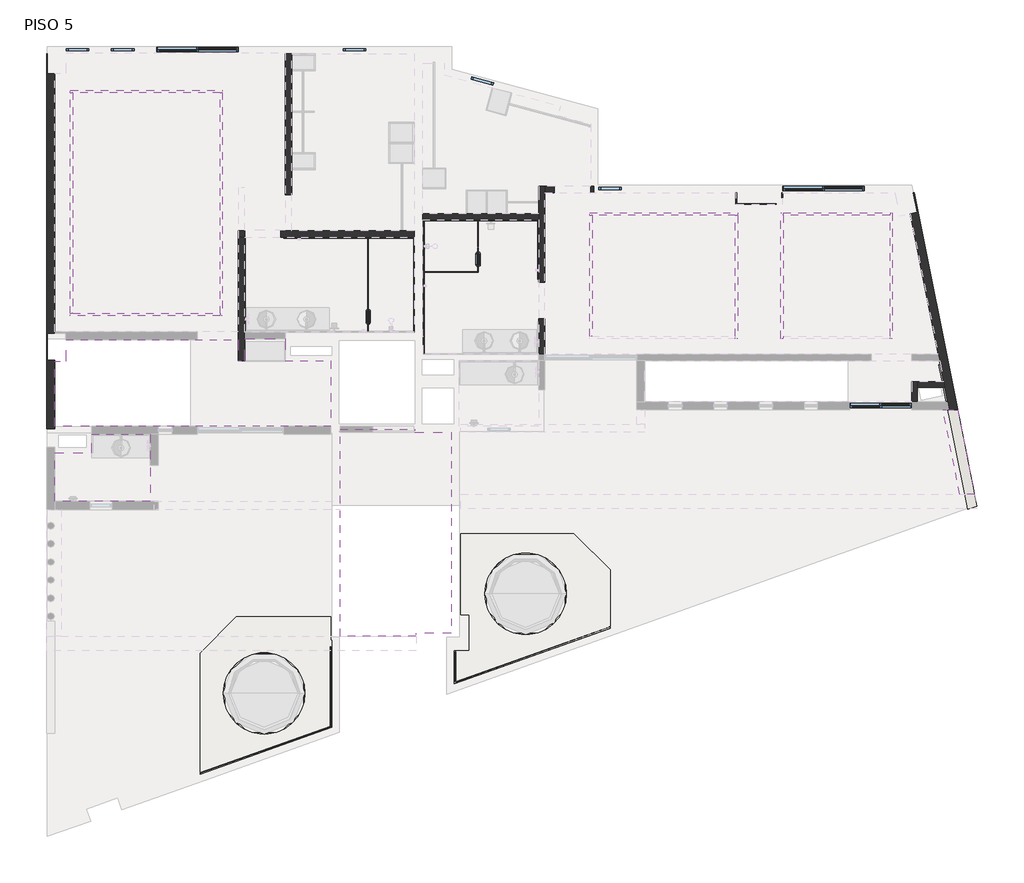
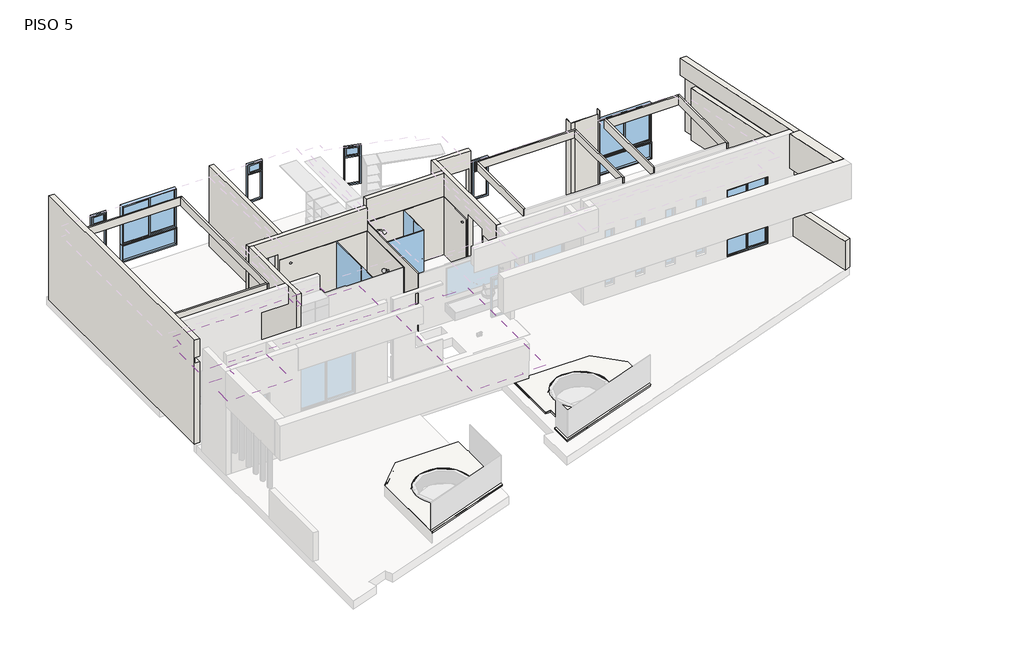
# One storey, part 2 of 3: 31 walls, 11 windows, 4 slabs, 3 coverings.
"""IFC4 building model written with IfcOpenShell, lengths in millimetres."""

from ifc_helpers import new_model, si_unit, point, frame, frame_2d, origin, place, context, project, spatial, polyline, circle_curve, trimmed, segment, composite_curve, outline, extrude, faceted_brep, transform, mapped, element, save
from components import estructura_ptr_deck09_estructura_ptr_deck09_391a90b6, estructura_ptr_deck1_estructura_ptr_deck09_1f454c2c, window_e71f6d47, window_b75bd1a9, window_504e83ce, window_25ba4c91, window_d1d74ead, window_4e6a734b, window_5b8805d6

model = new_model("IFC4")

# Units and contexts
model_context = context("Model", 3, world=origin())
ifc_project = project(units=[si_unit("LENGTHUNIT", "METRE", prefix="MILLI")], contexts=[model_context])

# Site, building, storey
site = spatial("IfcSite", under=ifc_project)
building = spatial("IfcBuilding", under=site)
storey = spatial("IfcBuildingStorey", under=building, Name="PISO 5", Elevation=15000.0)

# Coverings
placement = place(None, origin())
element("IfcCovering", 1, ObjectType="Plafond Tablaroca", at=placement, inside=storey, context=model_context, shape_type="SweptSolid", body=[
    extrude(outline(polyline([(34963.8589874, 29684.010184), (36254.5300226, 29684.010184), (36254.5300226, 28201.0432167), (34143.8589874, 28201.0432167), (34143.8589874, 29274.010184), (34963.8589874, 29274.010184), (34963.8589874, 29684.010184)])), frame((0.0, 0.0, 17400.0), z_axis=(0.0, 0.0, 1.0), x_axis=(1.0, 0.0, 0.0)), (0.0, 0.0, 1.0), 52.7),
])
element("IfcCovering", 2, ObjectType="Plafond Tablaroca", at=placement, inside=storey, context=model_context, shape_type="SweptSolid", body=[
    extrude(outline(polyline([(40234.5059119, 31304.0104769), (40234.5059119, 29864.010184), (34903.8589874, 29864.010184), (34143.8589874, 29864.010184), (34143.8589874, 31298.9733508), (34398.8589874, 31298.9733508), (34398.8589874, 31768.9733508), (38194.5300269, 31768.9733508), (38194.5300269, 31304.0104769), (38334.5300269, 31304.0104769), (38334.5300269, 31793.9733508), (39234.5300226, 31793.9733508), (39234.5300226, 31304.0104769), (40234.5059119, 31304.0104769)])), frame((0.0, 0.0, 17400.0), z_axis=(0.0, 0.0, 1.0), x_axis=(1.0, 0.0, 0.0)), (0.0, 0.0, 1.0), 52.7),
])
element("IfcCovering", 3, ObjectType="Plafond Tablaroca", at=placement, inside=storey, context=model_context, shape_type="SweptSolid", body=[
    extrude(outline(polyline([(40444.5059119, 25224.0112971), (40444.5059119, 29794.010184), (42089.5059119, 29794.010184), (42089.5059119, 29724.010184), (42899.5059119, 29724.010184), (42899.5059119, 25294.0112971), (42118.6451132, 25294.0112971), (42118.6451132, 25224.0112971), (40444.5059119, 25224.0112971)])), frame((0.0, 0.0, 17350.0), z_axis=(0.0, 0.0, 1.0), x_axis=(1.0, 0.0, 0.0)), (0.0, 0.0, 1.0), 52.7),
])

# Slabs
estructura_ptr_deck09_estructura_ptr_deck09_shape = estructura_ptr_deck09_estructura_ptr_deck09_391a90b6(model_context)
element("IfcSlab", 4, ObjectType="ESTRUCTURA PTR DECK09 : ESTRUCTURA PTR DECK09", at=placement, inside=storey, context=model_context, shape_type="MappedRepresentation", body=[
    mapped(estructura_ptr_deck09_estructura_ptr_deck09_shape, transform((0.0, 0.0, 0.0), x_axis=(1.0, 0.0, 0.0), y_axis=(0.0, 1.0, 0.0), z_axis=(0.0, 0.0, 1.0))),
])
estructura_ptr_deck1_estructura_ptr_deck09_shape = estructura_ptr_deck1_estructura_ptr_deck09_1f454c2c(model_context)
element("IfcSlab", 5, ObjectType="ESTRUCTURA PTR DECK1 : ESTRUCTURA PTR DECK09", at=placement, inside=storey, context=model_context, shape_type="MappedRepresentation", body=[
    mapped(estructura_ptr_deck1_estructura_ptr_deck09_shape, transform((0.0, 0.0, 0.0), x_axis=(1.0, 0.0, 0.0), y_axis=(0.0, 1.0, 0.0), z_axis=(0.0, 0.0, 1.0))),
])
element("IfcSlab", 6, ObjectType="deck", at=placement, inside=storey, context=model_context, shape_type="SweptSolid", body=[
    extrude(outline(polyline([(37354.5300226, 22176.7988802), (37354.5300226, 24849.35887), (38155.1711525, 25650.0), (40234.5059119, 25650.0), (40234.5059119, 25134.0112971), (40264.5059119, 25134.0112971), (40264.5059119, 23213.7791487), (37354.5300226, 22176.7988802)]), holes=[composite_curve([segment(trimmed(circle_curve(frame_2d((38767.6460545, 23962.4389461)), 900.0), [point((37867.6460545, 23962.4389461))], [point((39667.6460545, 23962.4389461))], True, "CARTESIAN"), True, "CONTINUOUS"), segment(trimmed(circle_curve(frame_2d((38767.6460545, 23962.4389461)), 900.0), [point((39667.6460545, 23962.4389461))], [point((37867.6460545, 23962.4389461))], True, "CARTESIAN"), True, "CONTINUOUS")], self_intersect=False)]), frame((0.0, 0.0, 15380.0), z_axis=(0.0, 0.0, 1.0), x_axis=(1.0, 0.0, 0.0)), (0.0, 0.0, 1.0), 20.0),
])
element("IfcSlab", 7, ObjectType="deck", at=placement, inside=storey, context=model_context, shape_type="SweptSolid", body=[
    extrude(outline(polyline([(43109.5059119, 27491.0432167), (45602.6275078, 27491.0432167), (46402.6275078, 26691.0432167), (46402.6275078, 25401.120633), (42962.6275078, 24175.2643855), (42962.6275078, 24900.0), (43289.5059119, 24900.0), (43289.5059119, 25694.0112971), (43109.5059119, 25694.0112971), (43109.5059119, 27491.0432167)]), holes=[composite_curve([segment(trimmed(circle_curve(frame_2d((44538.6061469, 26161.7354892)), 900.0), [point((43638.6061469, 26161.7354892))], [point((45438.6061469, 26161.7354892))], True, "CARTESIAN"), True, "CONTINUOUS"), segment(trimmed(circle_curve(frame_2d((44538.6061469, 26161.7354892)), 900.0), [point((45438.6061469, 26161.7354892))], [point((43638.6061469, 26161.7354892))], True, "CARTESIAN"), True, "CONTINUOUS")], self_intersect=False)]), frame((0.0, 0.0, 15380.0), z_axis=(0.0, 0.0, 1.0), x_axis=(1.0, 0.0, 0.0)), (0.0, 0.0, 1.0), 20.0),
])

# Walls
element("IfcWall", 8, ObjectType="Muro block 12cms_int_ductos", at=placement, inside=storey, context=model_context, shape_type="Brep", body=[
    faceted_brep([(53185.8558202, 30404.0104696, 15000.0), (53185.8558202, 30724.0100923, 15000.0), (53185.8558202, 30844.0100923, 15000.0), (53185.8558202, 30844.0100923, 17800.0), (53185.8558202, 30724.0100923, 17800.0), (53185.8558202, 30404.0104696, 17800.0), (53065.8558202, 30404.0104696, 15000.0), (53065.8558202, 30404.0104696, 17350.0), (53065.8558202, 30404.0104696, 17800.0), (53065.8558202, 30844.0100923, 17800.0), (53065.8558202, 30844.0100923, 15000.0)], [[[0, 1, 2, 3, 4, 5]], [[6, 7, 8, 9, 10]], [[2, 1, 0, 6, 10]], [[3, 2, 10, 9]], [[0, 5, 8, 7, 6]], [[5, 4, 3, 9, 8]]]),
])
element("IfcWall", 9, ObjectType="Muro block 12cms_int_ductos", at=placement, inside=storey, context=model_context, shape_type="Brep", body=[
    faceted_brep([(53185.8558202, 30724.0100923, 15000.0), (53760.5143431, 30724.0100923, 15000.0), (53760.5143431, 30724.0100923, 16000.0), (53791.1101607, 30724.0100923, 16000.0), (53791.1101607, 30724.0100923, 17800.0), (53185.8558202, 30724.0100923, 17800.0), (53185.8558202, 30844.0100923, 15000.0), (53185.8558202, 30844.0100923, 17800.0), (53767.0755006, 30844.0100923, 17800.0), (53767.0755006, 30844.0100923, 16000.0), (53736.479683, 30844.0100923, 16000.0), (53736.479683, 30844.0100923, 15000.0)], [[[0, 1, 2, 3, 4, 5]], [[6, 7, 8, 9, 10, 11]], [[1, 0, 6, 11]], [[0, 5, 7, 6]], [[5, 4, 8, 7]], [[9, 3, 2, 10]], [[2, 1, 11, 10]], [[4, 3, 9, 8]]]),
])
element("IfcWall", 10, ObjectType="Muro block 18cms_ext tezon", at=placement, inside=storey, context=model_context, shape_type="Brep", body=[
    faceted_brep([(53748.4740201, 30224.0104696, 17400.0), (54121.1592499, 28363.2715476, 17400.0), (54121.1592499, 28363.2715476, 18600.0), (53748.4740201, 30224.0104696, 18600.0), (54074.829408, 30224.0104696, 17400.0), (54074.829408, 30224.0104696, 18600.0), (54447.5146377, 28363.2715476, 18600.0), (54447.5146377, 28363.2715476, 17400.0), (53891.2545023, 30224.0104696, 18600.0)], [[[0, 1, 2, 3]], [[4, 5, 6, 7]], [[1, 0, 4, 7]], [[3, 2, 6, 5, 8]], [[0, 3, 8, 5, 4]], [[2, 1, 7, 6]]]),
])
element("IfcWall", 11, ObjectType="Muro Concreto - 17 cm + enjarre (21)", at=placement, inside=storey, context=model_context, shape_type="Brep", body=[
    faceted_brep([(53661.6667636, 31217.5352548, 15000.0), (53736.479683, 30844.0100923, 15000.0), (53760.5143431, 30724.0100923, 15000.0), (54297.1864274, 28044.5193158, 15000.0), (54301.1556495, 28024.7018254, 15000.0), (54301.1556495, 28024.7018254, 16000.0), (54265.4326509, 28203.0592396, 16000.0), (53760.5143431, 30724.0100923, 16000.0), (53736.479683, 30844.0100923, 16000.0), (53661.6667636, 31217.5352548, 16000.0), (54501.0585736, 28095.9379441, 16000.0), (54501.0585736, 28095.9379441, 15000.0), (54497.0893515, 28115.7554346, 15000.0), (54074.829408, 30224.0104696, 15000.0), (54074.829408, 30224.0104696, 16000.0), (53691.0825488, 31223.4269081, 15000.0), (53891.2545023, 30224.0104696, 15000.0), (53891.2545023, 30224.0104696, 16000.0), (53691.0825488, 31223.4269081, 16000.0)], [[[0, 1, 2, 3, 4, 5, 6, 7, 8, 9]], [[10, 11, 12, 13, 14]], [[4, 3, 2, 1, 0, 15, 16, 13, 12, 11]], [[9, 8, 7, 6, 5, 10, 14, 17, 18]], [[0, 9, 18, 15]], [[5, 4, 11, 10]], [[17, 16, 15, 18]], [[16, 17, 14, 13]]]),
])
element("IfcWall", 12, ObjectType="Plafond tablaroca", at=placement, inside=storey, context=model_context, shape_type="Brep", body=[
    faceted_brep([(49223.4726708, 34514.0104642, 17720.0), (49170.7726708, 34514.0104642, 17720.0), (46010.7963639, 34514.0104642, 17720.0), (45958.0963639, 34514.0104642, 17720.0), (45958.0963639, 34514.0104642, 17452.7), (46010.7963639, 34514.0104642, 17452.7), (49170.7726708, 34514.0104642, 17452.7), (49223.4726708, 34514.0104642, 17452.7), (45958.0963639, 34566.7104642, 17720.0), (49223.4726708, 34566.7104642, 17720.0), (49223.4726708, 34566.7104642, 17452.7), (45958.0963639, 34566.7104642, 17452.7)], [[[0, 1, 2, 3, 4, 5, 6, 7]], [[8, 9, 10, 11]], [[3, 2, 1, 0, 9, 8]], [[9, 0, 7, 10]], [[3, 8, 11, 4]], [[7, 6, 5, 4, 11, 10]]]),
])
element("IfcWall", 13, ObjectType="Plafond tablaroca", at=placement, inside=storey, context=model_context, shape_type="Brep", body=[
    faceted_brep([(49170.7726708, 31791.3104694, 17720.0), (49170.7726708, 31844.0104694, 17720.0), (49170.7726708, 34514.0104642, 17720.0), (49170.7726708, 34514.0104642, 17452.7), (49170.7726708, 31844.0104694, 17452.7), (49170.7726708, 31791.3104694, 17452.7), (49223.4726708, 34514.0104642, 17720.0), (49223.4726708, 31791.3104694, 17720.0), (49223.4726708, 31791.3104694, 17452.7), (49223.4726708, 34514.0104642, 17452.7)], [[[0, 1, 2, 3, 4, 5]], [[6, 7, 8, 9]], [[2, 1, 0, 7, 6]], [[2, 6, 9, 3]], [[7, 0, 5, 8]], [[5, 4, 3, 9, 8]]]),
])
element("IfcWall", 14, ObjectType="Plafond tablaroca", at=placement, inside=storey, context=model_context, shape_type="SweptSolid", body=[
    extrude(outline(polyline([(46010.7963639, 34514.0104642), (46010.7963639, 31844.0104694), (45958.0963639, 31844.0104694), (45958.0963639, 34514.0104642), (46010.7963639, 34514.0104642)])), frame((0.0, 0.0, 17452.7), z_axis=(0.0, 0.0, 1.0), x_axis=(1.0, 0.0, 0.0)), (0.0, 0.0, 1.0), 267.3),
])
element("IfcWall", 15, ObjectType="Plafond tablaroca", at=placement, inside=storey, context=model_context, shape_type="Brep", body=[
    faceted_brep([(37847.2300269, 37225.4026232, 17720.0), (37794.5300269, 37225.4026232, 17720.0), (34543.8589874, 37225.4026232, 17720.0), (34491.1589874, 37225.4026232, 17720.0), (34491.1589874, 37225.4026232, 17452.7), (34543.8589874, 37225.4026232, 17452.7), (37794.5300269, 37225.4026232, 17452.7), (37847.2300269, 37225.4026232, 17452.7), (34491.1589874, 37278.1026232, 17720.0), (37847.2300269, 37278.1026232, 17720.0), (37847.2300269, 37278.1026232, 17452.7), (34491.1589874, 37278.1026232, 17452.7)], [[[0, 1, 2, 3, 4, 5, 6, 7]], [[8, 9, 10, 11]], [[3, 2, 1, 0, 9, 8]], [[9, 0, 7, 10]], [[3, 8, 11, 4]], [[7, 6, 5, 4, 11, 10]]]),
])
element("IfcWall", 16, ObjectType="Plafond tablaroca", at=placement, inside=storey, context=model_context, shape_type="Brep", body=[
    faceted_brep([(37794.5300269, 32296.2733508, 17720.0), (37794.5300269, 32348.9733508, 17720.0), (37794.5300269, 37225.4026232, 17720.0), (37794.5300269, 37225.4026232, 17452.7), (37794.5300269, 32348.9733508, 17452.7), (37794.5300269, 32296.2733508, 17452.7), (37847.2300269, 37225.4026232, 17720.0), (37847.2300269, 32296.2733508, 17720.0), (37847.2300269, 32296.2733508, 17452.7), (37847.2300269, 37225.4026232, 17452.7)], [[[0, 1, 2, 3, 4, 5]], [[6, 7, 8, 9]], [[2, 1, 0, 7, 6]], [[2, 6, 9, 3]], [[7, 0, 5, 8]], [[5, 4, 3, 9, 8]]]),
])
element("IfcWall", 17, ObjectType="Plafond tablaroca", at=placement, inside=storey, context=model_context, shape_type="Brep", body=[
    faceted_brep([(34491.1589874, 32348.9733508, 17720.0), (34543.8589874, 32348.9733508, 17720.0), (37794.5300269, 32348.9733508, 17720.0), (37794.5300269, 32348.9733508, 17452.7), (34543.8589874, 32348.9733508, 17452.7), (34491.1589874, 32348.9733508, 17452.7), (37794.5300269, 32296.2733508, 17720.0), (34491.1589874, 32296.2733508, 17720.0), (34491.1589874, 32296.2733508, 17452.7), (37794.5300269, 32296.2733508, 17452.7)], [[[0, 1, 2, 3, 4, 5]], [[6, 7, 8, 9]], [[2, 1, 0, 7, 6]], [[2, 6, 9, 3]], [[7, 0, 5, 8]], [[5, 4, 3, 9, 8]]]),
])
element("IfcWall", 18, ObjectType="Plafond tablaroca", at=placement, inside=storey, context=model_context, shape_type="SweptSolid", body=[
    extrude(outline(polyline([(34543.8589874, 37225.4026232), (34543.8589874, 32348.9733508), (34491.1589874, 32348.9733508), (34491.1589874, 37225.4026232), (34543.8589874, 37225.4026232)])), frame((0.0, 0.0, 17452.7), z_axis=(0.0, 0.0, 1.0), x_axis=(1.0, 0.0, 0.0)), (0.0, 0.0, 1.0), 267.3),
])
element("IfcWall", 19, ObjectType="Cerámica baño", at=placement, inside=storey, context=model_context, shape_type="Brep", body=[
    faceted_brep([(42299.5059119, 31464.0104755, 15000.0), (42299.5059119, 33244.0104642, 15000.0), (42299.5059119, 33284.0104642, 15000.0), (42299.5059119, 34394.0104642, 15000.0), (42299.5059119, 34414.0104642, 15000.0), (42299.5059119, 34414.0104642, 17000.0), (42299.5059119, 34394.0104642, 17000.0), (42299.5059119, 33284.0104642, 17000.0), (42299.5059119, 33244.0104642, 17000.0), (42299.5059119, 31464.0104755, 17000.0), (42279.5059119, 31464.0104755, 15000.0), (42279.5059119, 31464.0104755, 17000.0), (42279.5059119, 34414.0104642, 17000.0), (42279.5059119, 34414.0104642, 15000.0)], [[[0, 1, 2, 3, 4, 5, 6, 7, 8, 9]], [[10, 11, 12, 13]], [[4, 3, 2, 1, 0, 10, 13]], [[9, 8, 7, 6, 5, 12, 11]], [[5, 4, 13, 12]], [[0, 9, 11, 10]]]),
])
element("IfcWall", 20, ObjectType="Cerámica baño", at=placement, inside=storey, context=model_context, shape_type="Brep", body=[
    faceted_brep([(42299.5059119, 34394.0104642, 15000.0), (43469.5059119, 34394.0104642, 15000.0), (43509.5059119, 34394.0104642, 15000.0), (44804.5251366, 34394.0104642, 15000.0), (44824.5251366, 34394.0104642, 15000.0), (44824.5251366, 34394.0104642, 17000.0), (44804.5251366, 34394.0104642, 17000.0), (43509.5059119, 34394.0104642, 17000.0), (43469.5059119, 34394.0104642, 17000.0), (42299.5059119, 34394.0104642, 17000.0), (42299.5059119, 34414.0104642, 15000.0), (42299.5059119, 34414.0104642, 17000.0), (44824.5251366, 34414.0104642, 17000.0), (44824.5251366, 34414.0104642, 15000.0)], [[[0, 1, 2, 3, 4, 5, 6, 7, 8, 9]], [[10, 11, 12, 13]], [[4, 3, 2, 1, 0, 10, 13]], [[9, 8, 7, 6, 5, 12, 11]], [[5, 4, 13, 12]], [[0, 9, 11, 10]]]),
])
element("IfcWall", 21, ObjectType="Cerámica baño", at=placement, inside=storey, context=model_context, shape_type="SweptSolid", body=[
    extrude(outline(polyline([(44804.5251366, 33104.0113801), (44804.5251366, 34394.0104642), (44824.5251366, 34394.0104642), (44824.5251366, 33104.0113801), (44804.5251366, 33104.0113801)])), frame((0.0, 0.0, 15000.0), z_axis=(0.0, 0.0, 1.0), x_axis=(1.0, 0.0, 0.0)), (0.0, 0.0, 1.0), 2000.0),
])
element("IfcWall", 22, ObjectType="Cerámica baño", at=placement, inside=storey, context=model_context, shape_type="Brep", body=[
    faceted_brep([(39204.5300269, 34008.9785701, 15000.0), (41044.5059119, 34008.9785701, 15000.0), (41084.5059119, 34008.9785701, 15000.0), (42064.5059119, 34008.9785701, 15000.0), (42084.5059119, 34008.9785701, 15000.0), (42084.5059119, 34008.9785701, 17000.0), (42064.5059119, 34008.9785701, 17000.0), (39204.5300269, 34008.9785701, 17000.0), (39204.5300269, 34028.9785701, 15000.0), (39204.5300269, 34028.9785701, 17000.0), (42084.5059119, 34028.9785701, 17000.0), (42084.5059119, 34028.9785701, 15000.0)], [[[0, 1, 2, 3, 4, 5, 6, 7]], [[8, 9, 10, 11]], [[4, 3, 2, 1, 0, 8, 11]], [[7, 6, 5, 10, 9]], [[0, 7, 9, 8]], [[5, 4, 11, 10]]]),
])
element("IfcWall", 23, ObjectType="Cerámica baño", at=placement, inside=storey, context=model_context, shape_type="Brep", body=[
    faceted_brep([(42064.5059119, 34008.9785701, 15000.0), (42064.5059119, 31953.9733508, 15000.0), (42064.5059119, 31933.9733508, 15000.0), (42064.5059119, 31933.9733508, 17000.0), (42064.5059119, 31953.9733508, 17000.0), (42064.5059119, 34008.9785701, 17000.0), (42084.5059119, 34008.9785701, 15000.0), (42084.5059119, 34008.9785701, 17000.0), (42084.5059119, 31933.9733508, 17000.0), (42084.5059119, 31933.9733508, 15000.0)], [[[0, 1, 2, 3, 4, 5]], [[6, 7, 8, 9]], [[2, 1, 0, 6, 9]], [[5, 4, 3, 8, 7]], [[3, 2, 9, 8]], [[0, 5, 7, 6]]]),
])
element("IfcWall", 24, ObjectType="Cerámica baño", at=placement, inside=storey, context=model_context, shape_type="SweptSolid", body=[
    extrude(outline(polyline([(38354.5300269, 34028.9785701), (38354.5300269, 31953.9733508), (38334.5300269, 31953.9733508), (38334.5300269, 34028.9785701), (38354.5300269, 34028.9785701)])), frame((0.0, 0.0, 15000.0), z_axis=(0.0, 0.0, 1.0), x_axis=(1.0, 0.0, 0.0)), (0.0, 0.0, 1.0), 2000.0),
])
element("IfcWall", 25, ObjectType="Plafond tablaroca", at=placement, inside=storey, context=model_context, shape_type="Brep", body=[
    faceted_brep([(52583.4450839, 34566.7104642, 17400.0), (52583.4450839, 34514.0104642, 17400.0), (52583.4450839, 31844.0104694, 17400.0), (52583.4450839, 31791.3104694, 17400.0), (52583.4450839, 31791.3104694, 17720.0), (52583.4450839, 31844.0104694, 17720.0), (52583.4450839, 34514.0104642, 17720.0), (52583.4450839, 34566.7104642, 17720.0), (52636.1450839, 34566.7104642, 17400.0), (52636.1450839, 34566.7104642, 17720.0), (52636.1450839, 31791.3104694, 17720.0), (52636.1450839, 31791.3104694, 17400.0)], [[[0, 1, 2, 3, 4, 5, 6, 7]], [[8, 9, 10, 11]], [[3, 2, 1, 0, 8, 11]], [[7, 6, 5, 4, 10, 9]], [[0, 7, 9, 8]], [[4, 3, 11, 10]]]),
])
element("IfcWall", 26, ObjectType="Plafond tablaroca", at=placement, inside=storey, context=model_context, shape_type="Brep", body=[
    faceted_brep([(50223.1917669, 31791.3104694, 17400.0), (50223.1917669, 31844.0104694, 17400.0), (50223.1917669, 34514.0104642, 17400.0), (50223.1917669, 34566.7104642, 17400.0), (50223.1917669, 34566.7104642, 17720.0), (50223.1917669, 34514.0104642, 17720.0), (50223.1917669, 31844.0104694, 17720.0), (50223.1917669, 31791.3104694, 17720.0), (50170.4917669, 31791.3104694, 17400.0), (50170.4917669, 31791.3104694, 17720.0), (50170.4917669, 34566.7104642, 17720.0), (50170.4917669, 34566.7104642, 17400.0)], [[[0, 1, 2, 3, 4, 5, 6, 7]], [[8, 9, 10, 11]], [[3, 2, 1, 0, 8, 11]], [[7, 6, 5, 4, 10, 9]], [[4, 3, 11, 10]], [[0, 7, 9, 8]]]),
])
element("IfcWall", 27, ObjectType="Plafond tablaroca", at=placement, inside=storey, context=model_context, shape_type="SweptSolid", body=[
    extrude(outline(polyline([(52583.4450839, 34514.0104642), (50223.1917669, 34514.0104642), (50223.1917669, 34566.7104642), (52583.4450839, 34566.7104642), (52583.4450839, 34514.0104642)])), frame((0.0, 0.0, 17400.0), z_axis=(0.0, 0.0, 1.0), x_axis=(1.0, 0.0, 0.0)), (0.0, 0.0, 1.0), 320.0),
])
element("IfcWall", 28, ObjectType="Muro block 14cms_int", at=placement, inside=storey, context=model_context, shape_type="Brep", body=[
    faceted_brep([(42084.5059119, 34028.9785701, 17800.0), (38334.5300269, 34028.9785701, 17800.0), (38194.5300269, 34028.9785701, 17800.0), (38194.5300269, 34028.9785701, 15000.0), (38334.5300269, 34028.9785701, 15000.0), (38334.5300269, 34028.9785701, 17200.0), (39134.5300269, 34028.9785701, 17200.0), (39134.5300269, 34028.9785701, 15000.0), (42084.5059119, 34028.9785701, 15000.0), (38194.5300269, 34168.9785701, 17800.0), (39234.5300226, 34168.9785701, 17800.0), (39374.5300226, 34168.9785701, 17800.0), (42084.5059119, 34168.9785701, 17800.0), (42084.5059119, 34168.9785701, 15000.0), (39134.5300269, 34168.9785701, 15000.0), (39134.5300269, 34168.9785701, 17200.0), (38334.5300269, 34168.9785701, 17200.0), (38334.5300269, 34168.9785701, 15000.0), (38194.5300269, 34168.9785701, 15000.0)], [[[0, 1, 2, 3, 4, 5, 6, 7, 8]], [[9, 10, 11, 12, 13, 14, 15, 16, 17, 18]], [[3, 18, 17, 4]], [[13, 8, 7, 14]], [[16, 5, 4, 17]], [[5, 16, 15, 6]], [[6, 15, 14, 7]], [[2, 1, 0, 12, 11, 10, 9]], [[18, 3, 2, 9]], [[0, 8, 13, 12]]]),
])
element("IfcWall", 29, ObjectType="Muro block 14cms_int", at=placement, inside=storey, context=model_context, shape_type="Brep", body=[
    faceted_brep([(39234.5300226, 38080.4026232, 17800.0), (39234.5300226, 38080.4026232, 15000.0), (39234.5300226, 34968.9785701, 15000.0), (39234.5300226, 34968.9785701, 17200.0), (39234.5300226, 34168.9785701, 17200.0), (39234.5300226, 34168.9785701, 17800.0), (39234.5300226, 36238.9785277, 17800.0), (39374.5300226, 38080.4026232, 17800.0), (39374.5300226, 34168.9785701, 17800.0), (39374.5300226, 34168.9785701, 17200.0), (39374.5300226, 34968.9785701, 17200.0), (39374.5300226, 34968.9785701, 15000.0), (39374.5300226, 38080.4026232, 15000.0)], [[[0, 1, 2, 3, 4, 5, 6]], [[7, 8, 9, 10, 11, 12]], [[1, 12, 11, 2]], [[8, 5, 4, 9]], [[3, 10, 9, 4]], [[10, 3, 2, 11]], [[1, 0, 7, 12]], [[8, 7, 0, 6, 5]]]),
])
element("IfcWall", 30, ObjectType="Muro block 14cms_int", at=placement, inside=storey, context=model_context, shape_type="Brep", body=[
    faceted_brep([(38334.5300269, 31304.0104769, 15000.0), (38334.5300269, 31793.9733508, 15000.0), (38334.5300269, 31933.9733508, 15000.0), (38334.5300269, 34028.9785701, 15000.0), (38334.5300269, 34028.9785701, 17200.0), (38334.5300269, 34028.9785701, 17800.0), (38334.5300269, 31933.9733508, 17800.0), (38334.5300269, 31793.9733508, 17800.0), (38334.5300269, 31304.0104769, 17800.0), (38194.5300269, 31304.0104769, 15000.0), (38194.5300269, 31304.0104769, 17800.0), (38194.5300269, 31768.9733508, 17800.0), (38194.5300269, 31948.9733508, 17800.0), (38194.5300269, 34028.9785701, 17800.0), (38194.5300269, 34028.9785701, 15000.0)], [[[0, 1, 2, 3, 4, 5, 6, 7, 8]], [[9, 10, 11, 12, 13, 14]], [[3, 2, 1, 0, 9, 14]], [[0, 8, 10, 9]], [[8, 7, 6, 5, 13, 12, 11, 10]], [[5, 4, 3, 14, 13]]]),
])
element("IfcWall", 31, ObjectType="Muro block 14cms_int", at=placement, inside=storey, context=model_context, shape_type="Brep", body=[
    faceted_brep([(44824.5251366, 31444.0104694, 17800.0), (44824.5251366, 34414.0104642, 17800.0), (44824.5251366, 34554.0104642, 17800.0), (44824.5251366, 35154.0104642, 17800.0), (44824.5251366, 35154.0104642, 15000.0), (44824.5251366, 34554.0104642, 15000.0), (44824.5251366, 34414.0104642, 15000.0), (44824.5251366, 33034.0113801, 15000.0), (44824.5251366, 33034.0113801, 17200.0), (44824.5251366, 32234.0113801, 17200.0), (44824.5251366, 32234.0113801, 15000.0), (44824.5251366, 31444.0104694, 15000.0), (44964.5251366, 35154.0104642, 17800.0), (44964.5251366, 35014.0104642, 17800.0), (44964.5251366, 31444.0104694, 17800.0), (44964.5251366, 31444.0104694, 17350.0), (44964.5251366, 31444.0104694, 15000.0), (44964.5251366, 32234.0113801, 15000.0), (44964.5251366, 32234.0113801, 17200.0), (44964.5251366, 33034.0113801, 17200.0), (44964.5251366, 33034.0113801, 15000.0), (44964.5251366, 35014.0104642, 15000.0), (44964.5251366, 35154.0104642, 15000.0)], [[[0, 1, 2, 3, 4, 5, 6, 7, 8, 9, 10, 11]], [[12, 13, 14, 15, 16, 17, 18, 19, 20, 21, 22]], [[16, 11, 10, 17]], [[4, 22, 21, 20, 7, 6, 5]], [[3, 2, 1, 0, 14, 13, 12]], [[0, 11, 16, 15, 14]], [[19, 8, 7, 20]], [[8, 19, 18, 9]], [[9, 18, 17, 10]], [[4, 3, 12, 22]]]),
])
element("IfcWall", 32, ObjectType="Muro block 14cms_int", at=placement, inside=storey, context=model_context, shape_type="Brep", body=[
    faceted_brep([(50214.4822189, 34899.0104642, 15000.0), (50214.4822189, 35014.0104642, 15000.0), (50214.4822189, 35014.0104642, 15400.0), (50214.4822189, 35014.0104642, 17350.0), (50214.4822189, 35014.0104642, 17800.0), (50214.4822189, 34899.0104642, 17800.0), (50194.4822189, 34899.0104642, 15000.0), (50194.4822189, 35014.0104642, 15000.0), (50194.4822189, 34899.0104642, 17800.0), (50194.4822189, 35014.0104642, 17800.0)], [[[0, 1, 2, 3, 4, 5]], [[1, 0, 6, 7]], [[7, 6, 8, 9]], [[4, 3, 2, 1, 7, 9]], [[0, 5, 8, 6]], [[5, 4, 9, 8]]]),
])
element("IfcWall", 33, ObjectType="Muro block 14cms_int", at=placement, inside=storey, context=model_context, shape_type="SweptSolid", body=[
    extrude(outline(polyline([(44824.5251366, 34414.0104642), (42264.5059119, 34414.0104642), (42264.5059119, 34554.0104642), (44824.5251366, 34554.0104642), (44824.5251366, 34414.0104642)])), frame((0.0, 0.0, 15000.0), z_axis=(0.0, 0.0, 1.0), x_axis=(1.0, 0.0, 0.0)), (0.0, 0.0, 1.0), 2800.0),
])
element("IfcWall", 34, ObjectType="Muro block 14cms_int", at=placement, inside=storey, context=model_context, shape_type="Brep", body=[
    faceted_brep([(46044.5059119, 35014.0104642, 15000.0), (46044.5059119, 35014.0104642, 17800.0), (44964.5251366, 35014.0104642, 17800.0), (44964.5251366, 35014.0104642, 15000.0), (45174.5059119, 35014.0104642, 15000.0), (45174.5059119, 35014.0104642, 17200.0), (45974.5059119, 35014.0104642, 17200.0), (45974.5059119, 35014.0104642, 15000.0), (46044.5059119, 35154.0104642, 17800.0), (46044.5059119, 35154.0104642, 15000.0), (45974.5059119, 35154.0104642, 15000.0), (45974.5059119, 35154.0104642, 17200.0), (45174.5059119, 35154.0104642, 17200.0), (45174.5059119, 35154.0104642, 15000.0), (44964.5251366, 35154.0104642, 15000.0), (44964.5251366, 35154.0104642, 17800.0), (45974.5059119, 35154.0104642, 17800.0)], [[[0, 1, 2, 3, 4, 5, 6, 7]], [[8, 9, 10, 11, 12, 13, 14, 15, 16]], [[3, 14, 13, 4]], [[9, 0, 7, 10]], [[1, 0, 9, 8]], [[2, 1, 8, 16, 15]], [[6, 11, 10, 7]], [[11, 6, 5, 12]], [[12, 5, 4, 13]], [[3, 2, 15, 14]]]),
])
element("IfcWall", 35, ObjectType="Muro block 14cms_int", at=placement, inside=storey, context=model_context, shape_type="SweptSolid", body=[
    extrude(outline(polyline([(49174.4822189, 34759.0104642), (49174.4822189, 35014.0104642), (49194.4822189, 35014.0104642), (49194.4822189, 34774.0104642), (49314.4822189, 34774.0104642), (49314.4822189, 34759.0104642), (49174.4822189, 34759.0104642)])), frame((0.0, 0.0, 15000.0), z_axis=(0.0, 0.0, 1.0), x_axis=(1.0, 0.0, 0.0)), (0.0, 0.0, 1.0), 2800.0),
])
element("IfcWall", 36, ObjectType="Muro block 14cms_int", at=placement, inside=storey, context=model_context, shape_type="SweptSolid", body=[
    extrude(outline(polyline([(50074.4822189, 34759.0104642), (49314.4822189, 34759.0104642), (49314.4822189, 34774.0104642), (50074.4822189, 34774.0104642), (50074.4822189, 34759.0104642)])), frame((0.0, 0.0, 15000.0), z_axis=(0.0, 0.0, 1.0), x_axis=(1.0, 0.0, 0.0)), (0.0, 0.0, 1.0), 2800.0),
])
element("IfcWall", 37, ObjectType="Muro block 18cms_ext", at=placement, inside=storey, context=model_context, shape_type="Brep", body=[
    faceted_brep([(33963.8589874, 38080.4026232, 15000.0), (33963.8589874, 29864.010184, 15000.0), (33963.8589874, 29804.010184, 15000.0), (33963.8589874, 29804.010184, 18600.0), (33963.8589874, 38080.4026232, 18600.0), (34143.8589874, 38080.4026232, 18600.0), (34143.8589874, 29804.010184, 18600.0), (34143.8589874, 29804.010184, 18000.0), (34143.8589874, 38080.4026232, 18000.0), (34143.8589874, 29804.010184, 17800.0), (34143.8589874, 29804.010184, 15000.0), (34143.8589874, 29864.010184, 15000.0), (34143.8589874, 31313.9733508, 15000.0), (34143.8589874, 31313.9733508, 17800.0), (34143.8589874, 29864.010184, 17800.0), (34143.8589874, 31913.9733508, 17800.0), (34143.8589874, 31913.9733508, 15000.0), (34143.8589874, 31948.9733508, 15000.0), (34143.8589874, 37640.4026232, 15000.0), (34143.8589874, 37640.4026232, 17800.0), (34143.8589874, 31948.9733508, 17800.0), (33983.8589874, 38080.4026232, 15000.0), (33983.8589874, 37640.4026232, 15000.0), (33983.8589874, 31913.9733508, 15000.0), (33983.8589874, 31313.9733508, 15000.0), (34123.8589874, 29804.010184, 15000.0), (34123.8589874, 29804.010184, 18600.0), (33983.8589874, 29804.010184, 17800.0), (34123.8589874, 29804.010184, 17800.0), (33983.8589874, 31313.9733508, 17800.0), (33983.8589874, 31913.9733508, 17800.0), (33983.8589874, 37640.4026232, 17800.0), (34123.8589874, 29804.010184, 18000.0), (33983.8589874, 29804.010184, 18000.0), (33983.8589874, 38080.4026232, 18000.0)], [[[0, 1, 2, 3, 4]], [[5, 6, 7, 8]], [[9, 10, 11, 12, 13, 14]], [[15, 16, 17, 18, 19, 20]], [[2, 1, 0, 21, 22, 18, 17, 16, 23, 24, 12, 11, 10, 25]], [[4, 3, 26, 6, 5]], [[27, 28, 9, 14, 13, 29]], [[30, 15, 20, 19, 31]], [[8, 7, 32, 33, 34]], [[33, 27, 29, 24, 23, 30, 31, 22, 21, 34]], [[2, 25, 10, 9, 28, 27, 33, 32, 7, 6, 26, 3]], [[24, 29, 13, 12]], [[30, 23, 16, 15]], [[0, 4, 5, 8, 34, 21]], [[22, 31, 19, 18]]]),
])
element("IfcWall", 38, ObjectType="Muro block 18cms_ext", at=placement, inside=storey, context=model_context, shape_type="Brep", body=[
    faceted_brep([(53891.2545023, 30224.0104696, 18600.0), (53855.2025121, 30404.0104696, 18600.0), (52931.8709868, 35014.0104642, 18600.0), (52931.8709868, 35014.0104642, 18000.0), (53855.2025121, 30404.0104696, 18000.0), (53887.2487256, 30244.0104696, 18000.0), (53887.2487256, 30244.0104696, 17800.0), (53855.2025121, 30404.0104696, 17800.0), (53791.1101607, 30724.0100923, 17800.0), (53767.0755006, 30844.0100923, 17800.0), (53674.9425613, 31304.0104694, 17800.0), (53646.9021244, 31444.0104694, 17800.0), (53023.9513461, 34554.2726084, 17800.0), (53023.9513461, 34554.2726084, 16000.0), (53689.1186644, 31233.2321699, 16000.0), (53689.1186644, 31233.2321699, 15000.0), (53691.0825488, 31223.4269081, 15000.0), (53855.2025121, 30404.0104696, 15000.0), (53891.2545023, 30224.0104696, 15000.0), (53891.2545023, 30224.0104696, 16000.0), (53115.4458925, 35014.0104642, 18600.0), (54074.829408, 30224.0104696, 18600.0), (54074.829408, 30224.0104696, 17400.0), (54074.829408, 30224.0104696, 16000.0), (54074.829408, 30224.0104696, 15000.0), (53865.6133758, 31268.5820899, 15000.0), (53865.6133758, 31268.5820899, 16000.0), (53115.4458925, 35014.0104642, 16000.0), (53846.0028523, 31264.654321, 15000.0), (54050.4264196, 30244.0104696, 17800.0), (53180.835534, 34585.6947595, 17800.0), (53095.0486808, 35014.0104642, 18000.0), (54050.4264196, 30244.0104696, 18000.0), (53095.0486808, 35014.0104642, 16000.0), (53180.835534, 34585.6947595, 16000.0)], [[[0, 1, 2, 3, 4, 5, 6, 7, 8, 9, 10, 11, 12, 13, 14, 15, 16, 17, 18, 19]], [[20, 21, 22, 23, 24, 25, 26, 27]], [[24, 18, 17, 16, 15, 28, 25]], [[2, 1, 0, 21, 20]], [[6, 29, 30, 12, 11, 10, 9, 8, 7]], [[5, 4, 3, 31, 32]], [[29, 32, 31, 33, 34, 30]], [[32, 29, 6, 5]], [[18, 24, 23, 22, 21, 0, 19]], [[26, 14, 13, 34, 33, 27]], [[14, 26, 25, 28, 15]], [[2, 20, 27, 33, 31, 3]], [[30, 34, 13, 12]]]),
])

# Windows
window_shape = window_e71f6d47(model_context)
element("IfcWindow", 39, ObjectType="VENT_ALUM_PROY_ARRIBA : V10-VENT_ALUM_PROY_ARRIBA BAÑO", at=placement, inside=storey, context=model_context, shape_type="MappedRepresentation", body=[
    mapped(window_shape, transform((34648.8589874, 38170.4026232, 15500.0), x_axis=(-1.0, 0.0, 0.0), y_axis=(0.0, -1.0, 0.0), z_axis=(0.0, 0.0, 1.0))),
])
element("IfcWindow", 40, ObjectType="VENT_ALUM_PROY_ARRIBA : V10-VENT_ALUM_PROY_ARRIBA BAÑO", at=placement, inside=storey, context=model_context, shape_type="MappedRepresentation", body=[
    mapped(window_shape, transform((35646.694505, 38170.4026232, 15500.0), x_axis=(-1.0, 0.0, 0.0), y_axis=(0.0, -1.0, 0.0), z_axis=(0.0, 0.0, 1.0))),
])
window_2_shape = window_b75bd1a9(model_context)
element("IfcWindow", 41, ObjectType="VENT_ALUM_CORR_2HOJAS_CORRE_1 FIJO ABAJO : V11-VENT_ALUM_CORR_2HOJAS_CORRE 1.0001", at=placement, inside=storey, context=model_context, shape_type="MappedRepresentation", body=[
    mapped(window_2_shape, transform((37294.5300226, 38170.4026232, 15100.0), x_axis=(1.0, 0.0, 0.0), y_axis=(0.0, 1.0, 0.0), z_axis=(0.0, 0.0, 1.0))),
])
element("IfcWindow", 42, ObjectType="VENT_ALUM_CORR_2HOJAS_CORRE_1 FIJO ABAJO : V11-VENT_ALUM_CORR_2HOJAS_CORRE 1.0001", at=placement, inside=storey, context=model_context, shape_type="MappedRepresentation", body=[
    mapped(window_2_shape, transform((51114.4822189, 35104.0104642, 15100.0), x_axis=(1.0, 0.0, 0.0), y_axis=(0.0, 1.0, 0.0), z_axis=(0.0, 0.0, 1.0))),
])
window_3_shape = window_504e83ce(model_context)
element("IfcWindow", 43, ObjectType="VENT_ALUM_PROY_ARRIBA : V10-VENT_ALUM_PROY_ARRIBA BAÑO", at=placement, inside=storey, context=model_context, shape_type="MappedRepresentation", body=[
    mapped(window_3_shape, transform((40764.5300226, 38170.4026232, 15500.0), x_axis=(1.0, 0.0, 0.0), y_axis=(0.0, 1.0, 0.0), z_axis=(0.0, 0.0, 1.0))),
])
element("IfcWindow", 44, ObjectType="VENT_ALUM_PROY_ARRIBA : V10-VENT_ALUM_PROY_ARRIBA BAÑO", at=placement, inside=storey, context=model_context, shape_type="MappedRepresentation", body=[
    mapped(window_3_shape, transform((43582.8140865, 37479.8513, 15500.0), x_axis=(0.9656959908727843, -0.2596752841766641, 0.0), y_axis=(0.2596752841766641, 0.9656959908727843, 0.0), z_axis=(0.0, 0.0, 1.0))),
])
element("IfcWindow", 45, ObjectType="VENT_ALUM_PROY_ARRIBA : V10-VENT_ALUM_PROY_ARRIBA BAÑO", at=placement, inside=storey, context=model_context, shape_type="MappedRepresentation", body=[
    mapped(window_3_shape, transform((46404.5059119, 35104.0104642, 15500.0), x_axis=(1.0, 0.0, 0.0), y_axis=(0.0, 1.0, 0.0), z_axis=(0.0, 0.0, 1.0))),
])
window_4_shape = window_25ba4c91(model_context)
element("IfcWindow", 46, ObjectType="VENT_ALUM_CORR_2HOJAS_CORRE 1 : V15-VENT_ALUM_CORR_2HOJAS_CORRE 3 - SALIDA PH 2", at=placement, inside=storey, context=model_context, shape_type="MappedRepresentation", body=[
    mapped(window_4_shape, transform((52378.3558202, 30314.0104696, 15000.0), x_axis=(1.0, 0.0, 0.0), y_axis=(0.0, 1.0, 0.0), z_axis=(0.0, 0.0, 1.0))),
])
window_5_shape = window_d1d74ead(model_context)
element("IfcWindow", 47, ObjectType="Baño 1 Puerta lateral - toallero simple : CA08a-cancel baño-1.15", at=placement, inside=storey, context=model_context, shape_type="MappedRepresentation", body=[
    mapped(window_5_shape, transform((43489.5059119, 33831.7604642, 15000.0), x_axis=(0.0, -1.0, 0.0), y_axis=(1.0, 0.0, 0.0), z_axis=(0.0, 0.0, 1.0))),
])
window_6_shape = window_4e6a734b(model_context)
element("IfcWindow", 48, ObjectType="Baño 1 Puerta lateral - toallero simple : CA05-cancel baño-2.06", at=placement, inside=storey, context=model_context, shape_type="MappedRepresentation", body=[
    mapped(window_6_shape, transform((41064.5059119, 32978.9785701, 15000.0), x_axis=(0.0, -1.0, 0.0), y_axis=(1.0, 0.0, 0.0), z_axis=(0.0, 0.0, 1.0))),
])
window_7_shape = window_5b8805d6(model_context)
element("IfcWindow", 49, ObjectType="Baño 1 Fijo simple : CA08b-cancel baño-1 fijo de 1.1955", at=placement, inside=storey, context=model_context, shape_type="MappedRepresentation", body=[
    mapped(window_7_shape, transform((42897.2559119, 33264.0104642, 15000.0), x_axis=(1.0, 0.0, 0.0), y_axis=(0.0, 1.0, 0.0), z_axis=(0.0, 0.0, 1.0))),
])

save(model, "model.ifc")
